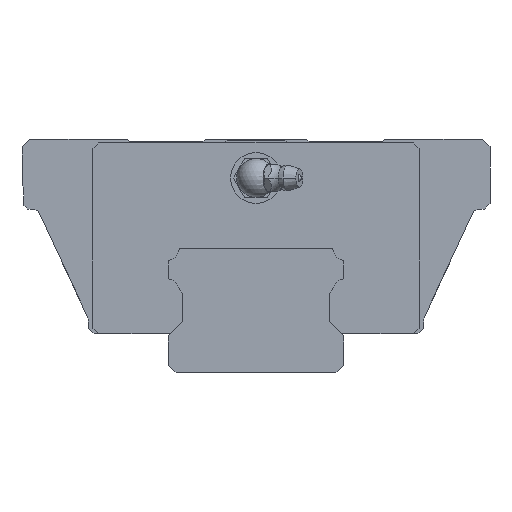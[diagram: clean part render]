
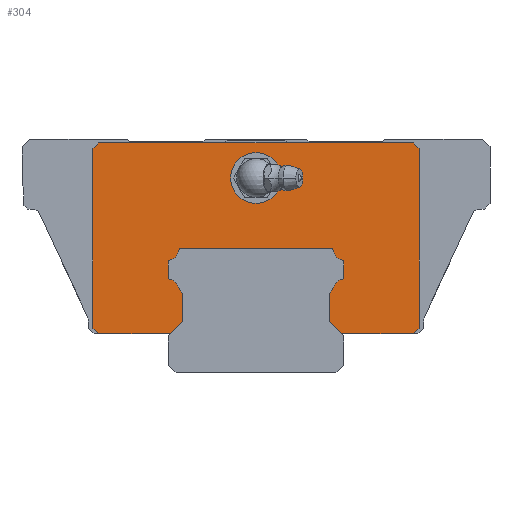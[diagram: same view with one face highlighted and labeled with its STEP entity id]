
A CAD part, front view. The second image highlights one B-rep face of the part: STEP entity #304.
In plain terms, the highlighted planar face has unit normal (0, -1, 0).
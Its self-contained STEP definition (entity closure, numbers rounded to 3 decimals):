
#304=ADVANCED_FACE('',(#719,#720),#721,.T.);
#719=FACE_BOUND('',#1283,.T.);
#720=FACE_OUTER_BOUND('',#1284,.T.);
#721=PLANE('',#1285);
#1283=EDGE_LOOP('',(#2719,#2720,#2721));
#1284=EDGE_LOOP('',(#2722,#2723,#2724,#2725,#2726,#2727,#2728,#2729,#2730,#2731,#2732,#2733,#2734,#2735,#2736,#2737,#2738,#2739,#2740,#2741,#2742,#2743,#2744,#2745,#2746,#2747,#2748,#2749));
#1285=AXIS2_PLACEMENT_3D('',#2750,#2751,#2752);
#2719=ORIENTED_EDGE('',*,*,#4295,.F.);
#2720=ORIENTED_EDGE('',*,*,#4296,.F.);
#2721=ORIENTED_EDGE('',*,*,#3937,.F.);
#2722=ORIENTED_EDGE('',*,*,#4133,.T.);
#2723=ORIENTED_EDGE('',*,*,#4297,.T.);
#2724=ORIENTED_EDGE('',*,*,#4298,.T.);
#2725=ORIENTED_EDGE('',*,*,#4273,.T.);
#2726=ORIENTED_EDGE('',*,*,#4270,.T.);
#2727=ORIENTED_EDGE('',*,*,#4299,.T.);
#2728=ORIENTED_EDGE('',*,*,#4300,.T.);
#2729=ORIENTED_EDGE('',*,*,#4288,.T.);
#2730=ORIENTED_EDGE('',*,*,#4301,.T.);
#2731=ORIENTED_EDGE('',*,*,#4302,.T.);
#2732=ORIENTED_EDGE('',*,*,#4303,.T.);
#2733=ORIENTED_EDGE('',*,*,#4304,.T.);
#2734=ORIENTED_EDGE('',*,*,#4284,.T.);
#2735=ORIENTED_EDGE('',*,*,#4256,.T.);
#2736=ORIENTED_EDGE('',*,*,#4305,.T.);
#2737=ORIENTED_EDGE('',*,*,#4306,.T.);
#2738=ORIENTED_EDGE('',*,*,#4244,.T.);
#2739=ORIENTED_EDGE('',*,*,#4307,.T.);
#2740=ORIENTED_EDGE('',*,*,#4308,.T.);
#2741=ORIENTED_EDGE('',*,*,#4309,.T.);
#2742=ORIENTED_EDGE('',*,*,#4310,.T.);
#2743=ORIENTED_EDGE('',*,*,#4311,.T.);
#2744=ORIENTED_EDGE('',*,*,#4214,.T.);
#2745=ORIENTED_EDGE('',*,*,#4312,.T.);
#2746=ORIENTED_EDGE('',*,*,#4313,.T.);
#2747=ORIENTED_EDGE('',*,*,#4314,.T.);
#2748=ORIENTED_EDGE('',*,*,#4235,.T.);
#2749=ORIENTED_EDGE('',*,*,#4315,.T.);
#2750=CARTESIAN_POINT('',(0.,-34.25,99.3));
#2751=DIRECTION('',(0.0,-1.0,0.0));
#2752=DIRECTION('',(0.0,0.0,-1.0));
#3937=EDGE_CURVE('',#4730,#4733,#4734,.T.);
#4133=EDGE_CURVE('',#5102,#5106,#5108,.T.);
#4214=EDGE_CURVE('',#5240,#5244,#5246,.T.);
#4235=EDGE_CURVE('',#5274,#5278,#5280,.T.);
#4244=EDGE_CURVE('',#5289,#5293,#5295,.T.);
#4256=EDGE_CURVE('',#5307,#5311,#5313,.T.);
#4270=EDGE_CURVE('',#5328,#5330,#5332,.T.);
#4273=EDGE_CURVE('',#5334,#5328,#5336,.T.);
#4284=EDGE_CURVE('',#5347,#5307,#5350,.T.);
#4288=EDGE_CURVE('',#5352,#5354,#5356,.T.);
#4295=EDGE_CURVE('',#5365,#4730,#5366,.T.);
#4296=EDGE_CURVE('',#4733,#5365,#5367,.T.);
#4297=EDGE_CURVE('',#5106,#5368,#5369,.T.);
#4298=EDGE_CURVE('',#5368,#5334,#5370,.T.);
#4299=EDGE_CURVE('',#5330,#5371,#5372,.T.);
#4300=EDGE_CURVE('',#5371,#5352,#5373,.T.);
#4301=EDGE_CURVE('',#5354,#5374,#5375,.T.);
#4302=EDGE_CURVE('',#5374,#5376,#5377,.T.);
#4303=EDGE_CURVE('',#5376,#5378,#5379,.T.);
#4304=EDGE_CURVE('',#5378,#5347,#5380,.T.);
#4305=EDGE_CURVE('',#5311,#5381,#5382,.T.);
#4306=EDGE_CURVE('',#5381,#5289,#5383,.T.);
#4307=EDGE_CURVE('',#5293,#5384,#5385,.T.);
#4308=EDGE_CURVE('',#5384,#5386,#5387,.T.);
#4309=EDGE_CURVE('',#5386,#5388,#5389,.T.);
#4310=EDGE_CURVE('',#5388,#5390,#5391,.T.);
#4311=EDGE_CURVE('',#5390,#5240,#5392,.T.);
#4312=EDGE_CURVE('',#5244,#5393,#5394,.T.);
#4313=EDGE_CURVE('',#5393,#5395,#5396,.T.);
#4314=EDGE_CURVE('',#5395,#5274,#5397,.T.);
#4315=EDGE_CURVE('',#5278,#5102,#5398,.T.);
#4730=VERTEX_POINT('',#5975);
#4733=VERTEX_POINT('',#5979);
#4734=CIRCLE('',#5980,6.5);
#5102=VERTEX_POINT('',#6488);
#5106=VERTEX_POINT('',#6494);
#5108=LINE('',#6497,#6498);
#5240=VERTEX_POINT('',#6695);
#5244=VERTEX_POINT('',#6700);
#5246=CIRCLE('',#6703,3.2);
#5274=VERTEX_POINT('',#6738);
#5278=VERTEX_POINT('',#6743);
#5280=CIRCLE('',#6746,3.2);
#5289=VERTEX_POINT('',#6760);
#5293=VERTEX_POINT('',#6766);
#5295=LINE('',#6769,#6770);
#5307=VERTEX_POINT('',#6784);
#5311=VERTEX_POINT('',#6790);
#5313=LINE('',#6793,#6794);
#5328=VERTEX_POINT('',#6815);
#5330=VERTEX_POINT('',#6818);
#5332=LINE('',#6821,#6822);
#5334=VERTEX_POINT('',#6824);
#5336=LINE('',#6827,#6828);
#5347=VERTEX_POINT('',#6844);
#5350=LINE('',#6849,#6850);
#5352=VERTEX_POINT('',#6852);
#5354=VERTEX_POINT('',#6855);
#5356=LINE('',#6858,#6859);
#5365=VERTEX_POINT('',#6877);
#5366=CIRCLE('',#6878,6.5);
#5367=CIRCLE('',#6879,6.5);
#5368=VERTEX_POINT('',#6880);
#5369=LINE('',#6881,#6882);
#5370=LINE('',#6883,#6884);
#5371=VERTEX_POINT('',#6885);
#5372=LINE('',#6886,#6887);
#5373=LINE('',#6888,#6889);
#5374=VERTEX_POINT('',#6890);
#5375=LINE('',#6891,#6892);
#5376=VERTEX_POINT('',#6893);
#5377=LINE('',#6894,#6895);
#5378=VERTEX_POINT('',#6896);
#5379=LINE('',#6897,#6898);
#5380=LINE('',#6899,#6900);
#5381=VERTEX_POINT('',#6901);
#5382=CIRCLE('',#6902,3.2);
#5383=CIRCLE('',#6903,0.5);
#5384=VERTEX_POINT('',#6904);
#5385=CIRCLE('',#6905,0.5);
#5386=VERTEX_POINT('',#6906);
#5387=CIRCLE('',#6907,3.2);
#5388=VERTEX_POINT('',#6908);
#5389=CIRCLE('',#6909,0.5);
#5390=VERTEX_POINT('',#6910);
#5391=LINE('',#6911,#6912);
#5392=CIRCLE('',#6913,0.5);
#5393=VERTEX_POINT('',#6914);
#5394=CIRCLE('',#6915,0.5);
#5395=VERTEX_POINT('',#6916);
#5396=LINE('',#6917,#6918);
#5397=CIRCLE('',#6919,0.5);
#5398=LINE('',#6920,#6921);
#5975=CARTESIAN_POINT('',(0.,-34.25,56.5));
#5979=CARTESIAN_POINT('',(0.,-34.25,43.5));
#5980=AXIS2_PLACEMENT_3D('',#7731,#7732,#7733);
#6488=CARTESIAN_POINT('',(18.75,-34.25,20.45));
#6494=CARTESIAN_POINT('',(18.75,-34.25,13.25));
#6497=CARTESIAN_POINT('',(18.75,-34.25,99.3));
#6498=VECTOR('',#8081,1000.0);
#6695=CARTESIAN_POINT('',(19.681,-34.25,31.58));
#6700=CARTESIAN_POINT('',(22.113,-34.25,28.973));
#6703=AXIS2_PLACEMENT_3D('',#8195,#8196,#8197);
#6738=CARTESIAN_POINT('',(22.113,-34.25,24.027));
#6743=CARTESIAN_POINT('',(19.674,-34.25,21.374));
#6746=AXIS2_PLACEMENT_3D('',#8240,#8241,#8242);
#6760=CARTESIAN_POINT('',(-22.5,-34.25,24.514));
#6766=CARTESIAN_POINT('',(-22.5,-34.25,28.486));
#6769=CARTESIAN_POINT('',(-22.5,-34.25,99.3));
#6770=VECTOR('',#8251,1000.0);
#6784=CARTESIAN_POINT('',(-18.75,-34.25,20.45));
#6790=CARTESIAN_POINT('',(-19.674,-34.25,21.374));
#6793=CARTESIAN_POINT('',(-48.8,-34.25,50.5));
#6794=VECTOR('',#8275,1000.0);
#6815=CARTESIAN_POINT('',(41.8,-34.25,11.5));
#6818=CARTESIAN_POINT('',(41.8,-34.25,57.5));
#6821=CARTESIAN_POINT('',(41.8,-34.25,11.5));
#6822=VECTOR('',#8299,1000.0);
#6824=CARTESIAN_POINT('',(40.3,-34.25,10.0));
#6827=CARTESIAN_POINT('',(40.3,-34.25,10.0));
#6828=VECTOR('',#8304,1000.0);
#6844=CARTESIAN_POINT('',(-18.75,-34.25,13.25));
#6849=CARTESIAN_POINT('',(-18.75,-34.25,99.3));
#6850=VECTOR('',#8321,1000.0);
#6852=CARTESIAN_POINT('',(-40.3,-34.25,59.0));
#6855=CARTESIAN_POINT('',(-41.8,-34.25,57.5));
#6858=CARTESIAN_POINT('',(-40.3,-34.25,59.0));
#6859=VECTOR('',#8327,1000.0);
#6877=CARTESIAN_POINT('',(6.5,-34.25,50.0));
#6878=AXIS2_PLACEMENT_3D('',#8337,#8338,#8339);
#6879=AXIS2_PLACEMENT_3D('',#8340,#8341,#8342);
#6880=CARTESIAN_POINT('',(22.0,-34.25,10.0));
#6881=CARTESIAN_POINT('',(-33.65,-34.25,65.65));
#6882=VECTOR('',#8343,1000.0);
#6883=CARTESIAN_POINT('',(-40.3,-34.25,10.0));
#6884=VECTOR('',#8344,1000.0);
#6885=CARTESIAN_POINT('',(40.3,-34.25,59.0));
#6886=CARTESIAN_POINT('',(41.8,-34.25,57.5));
#6887=VECTOR('',#8345,1000.0);
#6888=CARTESIAN_POINT('',(40.3,-34.25,59.0));
#6889=VECTOR('',#8346,1000.0);
#6890=CARTESIAN_POINT('',(-41.8,-34.25,11.5));
#6891=CARTESIAN_POINT('',(-41.8,-34.25,57.5));
#6892=VECTOR('',#8347,1000.0);
#6893=CARTESIAN_POINT('',(-40.3,-34.25,10.0));
#6894=CARTESIAN_POINT('',(-41.8,-34.25,11.5));
#6895=VECTOR('',#8348,1000.0);
#6896=CARTESIAN_POINT('',(-22.0,-34.25,10.0));
#6897=CARTESIAN_POINT('',(-40.3,-34.25,10.0));
#6898=VECTOR('',#8349,1000.0);
#6899=CARTESIAN_POINT('',(33.65,-34.25,65.65));
#6900=VECTOR('',#8350,1000.0);
#6901=CARTESIAN_POINT('',(-22.113,-34.25,24.027));
#6902=AXIS2_PLACEMENT_3D('',#8351,#8352,#8353);
#6903=AXIS2_PLACEMENT_3D('',#8354,#8355,#8356);
#6904=CARTESIAN_POINT('',(-22.113,-34.25,28.973));
#6905=AXIS2_PLACEMENT_3D('',#8357,#8358,#8359);
#6906=CARTESIAN_POINT('',(-19.681,-34.25,31.58));
#6907=AXIS2_PLACEMENT_3D('',#8360,#8361,#8362);
#6908=CARTESIAN_POINT('',(-19.187,-34.25,32.0));
#6909=AXIS2_PLACEMENT_3D('',#8363,#8364,#8365);
#6910=CARTESIAN_POINT('',(19.187,-34.25,32.0));
#6911=CARTESIAN_POINT('',(0.,-34.25,32.0));
#6912=VECTOR('',#8366,1000.0);
#6913=AXIS2_PLACEMENT_3D('',#8367,#8368,#8369);
#6914=CARTESIAN_POINT('',(22.5,-34.25,28.486));
#6915=AXIS2_PLACEMENT_3D('',#8370,#8371,#8372);
#6916=CARTESIAN_POINT('',(22.5,-34.25,24.514));
#6917=CARTESIAN_POINT('',(22.5,-34.25,99.3));
#6918=VECTOR('',#8373,1000.0);
#6919=AXIS2_PLACEMENT_3D('',#8374,#8375,#8376);
#6920=CARTESIAN_POINT('',(48.8,-34.25,50.5));
#6921=VECTOR('',#8377,1000.0);
#7731=CARTESIAN_POINT('',(0.,-34.25,50.0));
#7732=DIRECTION('',(0.0,-1.0,0.0));
#7733=DIRECTION('',(1.0,0.0,0.0));
#8081=DIRECTION('',(0.0,0.0,-1.0));
#8195=CARTESIAN_POINT('',(22.84,-34.25,32.09));
#8196=DIRECTION('',(0.0,-1.0,0.0));
#8197=DIRECTION('',(0.0,0.0,-1.0));
#8240=CARTESIAN_POINT('',(22.84,-34.25,20.91));
#8241=DIRECTION('',(0.0,-1.0,0.0));
#8242=DIRECTION('',(0.0,0.0,-1.0));
#8251=DIRECTION('',(0.0,0.0,1.0));
#8275=DIRECTION('',(-0.707,0.0,0.707));
#8299=DIRECTION('',(0.0,0.0,1.0));
#8304=DIRECTION('',(0.707,0.0,0.707));
#8321=DIRECTION('',(0.0,0.0,1.0));
#8327=DIRECTION('',(-0.707,0.0,-0.707));
#8337=CARTESIAN_POINT('',(0.,-34.25,50.0));
#8338=DIRECTION('',(0.0,-1.0,0.0));
#8339=DIRECTION('',(1.0,0.0,0.0));
#8340=CARTESIAN_POINT('',(0.,-34.25,50.0));
#8341=DIRECTION('',(0.0,-1.0,0.0));
#8342=DIRECTION('',(1.0,0.0,0.0));
#8343=DIRECTION('',(0.707,0.0,-0.707));
#8344=DIRECTION('',(1.0,0.0,0.0));
#8345=DIRECTION('',(-0.707,0.0,0.707));
#8346=DIRECTION('',(-1.0,0.0,0.));
#8347=DIRECTION('',(0.0,0.0,-1.0));
#8348=DIRECTION('',(0.707,0.0,-0.707));
#8349=DIRECTION('',(1.0,0.0,0.0));
#8350=DIRECTION('',(0.707,0.0,0.707));
#8351=CARTESIAN_POINT('',(-22.84,-34.25,20.91));
#8352=DIRECTION('',(0.0,-1.0,0.0));
#8353=DIRECTION('',(0.0,0.0,-1.0));
#8354=CARTESIAN_POINT('',(-22.0,-34.25,24.514));
#8355=DIRECTION('',(0.0,1.0,0.0));
#8356=DIRECTION('',(0.0,0.0,-1.0));
#8357=CARTESIAN_POINT('',(-22.0,-34.25,28.486));
#8358=DIRECTION('',(0.0,1.0,0.0));
#8359=DIRECTION('',(0.0,0.0,-1.0));
#8360=CARTESIAN_POINT('',(-22.84,-34.25,32.09));
#8361=DIRECTION('',(0.0,-1.0,0.0));
#8362=DIRECTION('',(0.0,0.0,-1.0));
#8363=CARTESIAN_POINT('',(-19.187,-34.25,31.5));
#8364=DIRECTION('',(0.0,1.0,0.0));
#8365=DIRECTION('',(0.0,0.0,-1.0));
#8366=DIRECTION('',(1.0,0.0,0.0));
#8367=CARTESIAN_POINT('',(19.187,-34.25,31.5));
#8368=DIRECTION('',(0.0,1.0,0.0));
#8369=DIRECTION('',(0.0,0.0,-1.0));
#8370=CARTESIAN_POINT('',(22.0,-34.25,28.486));
#8371=DIRECTION('',(0.0,1.0,0.0));
#8372=DIRECTION('',(0.0,0.0,-1.0));
#8373=DIRECTION('',(0.0,0.0,-1.0));
#8374=CARTESIAN_POINT('',(22.0,-34.25,24.514));
#8375=DIRECTION('',(0.0,1.0,0.0));
#8376=DIRECTION('',(0.0,0.0,-1.0));
#8377=DIRECTION('',(-0.707,0.0,-0.707));
